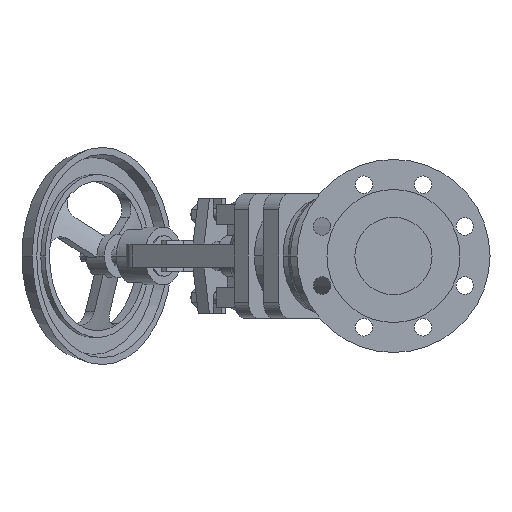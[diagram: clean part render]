
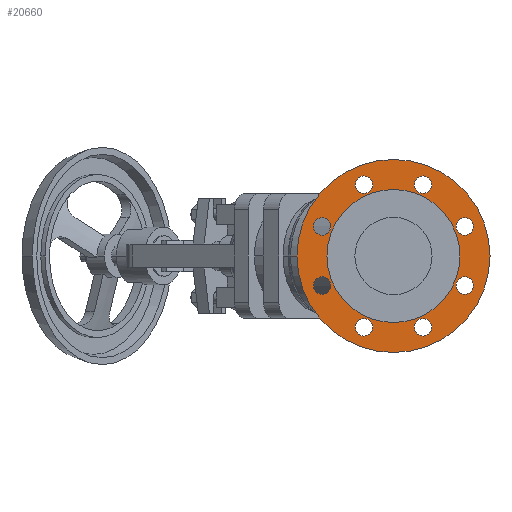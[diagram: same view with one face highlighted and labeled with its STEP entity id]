
A CAD part, left-side view. The second image highlights one B-rep face of the part: STEP entity #20660.
In plain terms, the highlighted planar face has unit normal (-1, 0, 0).
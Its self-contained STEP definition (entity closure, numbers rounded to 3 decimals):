
#4680=CARTESIAN_POINT('',(3.76,-68.875,0.)
);
#4690=VERTEX_POINT('',#4680);
#4850=CARTESIAN_POINT('',(3.76,68.875,0.)
);
#4860=VERTEX_POINT('',#4850);
#4890=CARTESIAN_POINT('',(3.76,0.,0.));
#4900=DIRECTION('',(-1.,0.,0.));
#4910=DIRECTION('',(0.,1.,0.));
#4920=AXIS2_PLACEMENT_3D('',#4890,#4900,#4910);
#4930=CIRCLE('',#4920,68.875);
#4940=EDGE_CURVE('',#4690,#4860,#4930,.T.);
#6870=CARTESIAN_POINT('',(3.76,0.,-100.));
#6880=VERTEX_POINT('',#6870);
#7060=CARTESIAN_POINT('',(3.76,0.,100.));
#7070=VERTEX_POINT('',#7060);
#7100=CARTESIAN_POINT('',(3.76,0.,0.));
#7110=DIRECTION('',(1.,0.,0.));
#7120=DIRECTION('',(0.,0.,-1.));
#7130=AXIS2_PLACEMENT_3D('',#7100,#7110,#7120);
#7140=CIRCLE('',#7130,100.);
#7150=EDGE_CURVE('',#6880,#7070,#7140,.T.);
#7360=CARTESIAN_POINT('',(3.76,30.615,
-82.91));
#7370=VERTEX_POINT('',#7360);
#7550=CARTESIAN_POINT('',(3.76,30.615,
-64.91));
#7560=VERTEX_POINT('',#7550);
#7590=CARTESIAN_POINT('',(3.76,30.615,
-73.91));
#7600=DIRECTION('',(-1.,0.,0.));
#7610=DIRECTION('',(0.,0.,-1.));
#7620=AXIS2_PLACEMENT_3D('',#7590,#7600,#7610);
#7630=CIRCLE('',#7620,9.);
#7640=EDGE_CURVE('',#7370,#7560,#7630,.T.);
#7850=CARTESIAN_POINT('',(3.76,-30.615,
-64.91));
#7860=VERTEX_POINT('',#7850);
#8040=CARTESIAN_POINT('',(3.76,-30.615,
-82.91));
#8050=VERTEX_POINT('',#8040);
#8080=CARTESIAN_POINT('',(3.76,-30.615,
-73.91));
#8090=DIRECTION('',(-1.,0.,0.));
#8100=DIRECTION('',(0.,0.,-1.));
#8110=AXIS2_PLACEMENT_3D('',#8080,#8090,#8100);
#8120=CIRCLE('',#8110,9.);
#8130=EDGE_CURVE('',#7860,#8050,#8120,.T.);
#8340=CARTESIAN_POINT('',(3.76,73.91,
-39.615));
#8350=VERTEX_POINT('',#8340);
#8400=CARTESIAN_POINT('',(3.76,73.91,
-30.615));
#8410=DIRECTION('',(-1.,0.,0.));
#8420=DIRECTION('',(0.,0.,-1.));
#8430=AXIS2_PLACEMENT_3D('',#8400,#8410,#8420);
#8440=CIRCLE('',#8430,9.);
#8450=CARTESIAN_POINT('',(3.76,73.91,
-21.615));
#8460=VERTEX_POINT('',#8450);
#8470=EDGE_CURVE('',#8460,#8350,#8440,.T.);
#8830=CARTESIAN_POINT('',(3.76,-73.91,
-21.615));
#8840=VERTEX_POINT('',#8830);
#9020=CARTESIAN_POINT('',(3.76,-73.91,
-39.615));
#9030=VERTEX_POINT('',#9020);
#9060=CARTESIAN_POINT('',(3.76,-73.91,
-30.615));
#9070=DIRECTION('',(-1.,0.,0.));
#9080=DIRECTION('',(0.,0.,-1.));
#9090=AXIS2_PLACEMENT_3D('',#9060,#9070,#9080);
#9100=CIRCLE('',#9090,9.);
#9110=EDGE_CURVE('',#8840,#9030,#9100,.T.);
#9320=CARTESIAN_POINT('',(3.76,73.91,
21.615));
#9330=VERTEX_POINT('',#9320);
#9510=CARTESIAN_POINT('',(3.76,73.91,
39.615));
#9520=VERTEX_POINT('',#9510);
#9550=CARTESIAN_POINT('',(3.76,73.91,
30.615));
#9560=DIRECTION('',(-1.,0.,0.));
#9570=DIRECTION('',(0.,0.,-1.));
#9580=AXIS2_PLACEMENT_3D('',#9550,#9560,#9570);
#9590=CIRCLE('',#9580,9.);
#9600=EDGE_CURVE('',#9330,#9520,#9590,.T.);
#9810=CARTESIAN_POINT('',(3.76,-73.91,
21.615));
#9820=VERTEX_POINT('',#9810);
#9870=CARTESIAN_POINT('',(3.76,-73.91,
30.615));
#9880=DIRECTION('',(-1.,0.,0.));
#9890=DIRECTION('',(0.,0.,-1.));
#9900=AXIS2_PLACEMENT_3D('',#9870,#9880,#9890);
#9910=CIRCLE('',#9900,9.);
#9920=CARTESIAN_POINT('',(3.76,-73.91,
39.615));
#9930=VERTEX_POINT('',#9920);
#9940=EDGE_CURVE('',#9930,#9820,#9910,.T.);
#10300=CARTESIAN_POINT('',(3.76,30.615,
64.91));
#10310=VERTEX_POINT('',#10300);
#10360=CARTESIAN_POINT('',(3.76,30.615,
73.91));
#10370=DIRECTION('',(-1.,0.,0.));
#10380=DIRECTION('',(0.,0.,-1.));
#10390=AXIS2_PLACEMENT_3D('',#10360,#10370,#10380);
#10400=CIRCLE('',#10390,9.);
#10410=CARTESIAN_POINT('',(3.76,30.615,
82.91));
#10420=VERTEX_POINT('',#10410);
#10430=EDGE_CURVE('',#10420,#10310,#10400,.T.);
#10790=CARTESIAN_POINT('',(3.76,-30.615,
64.91));
#10800=VERTEX_POINT('',#10790);
#10980=CARTESIAN_POINT('',(3.76,-30.615,
82.91));
#10990=VERTEX_POINT('',#10980);
#11020=CARTESIAN_POINT('',(3.76,-30.615,
73.91));
#11030=DIRECTION('',(-1.,0.,0.));
#11040=DIRECTION('',(0.,0.,-1.));
#11050=AXIS2_PLACEMENT_3D('',#11020,#11030,#11040);
#11060=CIRCLE('',#11050,9.);
#11070=EDGE_CURVE('',#10800,#10990,#11060,.T.);
#20110=CARTESIAN_POINT('',(3.76,0.,0.));
#20120=DIRECTION('',(1.,0.,0.));
#20130=DIRECTION('',(0.,0.,-1.));
#20140=AXIS2_PLACEMENT_3D('',#20110,#20120,#20130);
#20150=PLANE('',#20140);
#20160=EDGE_CURVE('',#10990,#10800,#11060,.T.);
#20170=ORIENTED_EDGE('',*,*,#20160,.F.);
#20180=ORIENTED_EDGE('',*,*,#11070,.F.);
#20190=EDGE_LOOP('',(#20180,#20170));
#20200=FACE_BOUND('',#20190,.T.);
#20210=ORIENTED_EDGE('',*,*,#10430,.F.);
#20220=EDGE_CURVE('',#10310,#10420,#10400,.T.);
#20230=ORIENTED_EDGE('',*,*,#20220,.F.);
#20240=EDGE_LOOP('',(#20230,#20210));
#20250=FACE_BOUND('',#20240,.T.);
#20260=EDGE_CURVE('',#9820,#9930,#9910,.T.);
#20270=ORIENTED_EDGE('',*,*,#20260,.F.);
#20280=ORIENTED_EDGE('',*,*,#9940,.F.);
#20290=EDGE_LOOP('',(#20280,#20270));
#20300=FACE_BOUND('',#20290,.T.);
#20310=EDGE_CURVE('',#9520,#9330,#9590,.T.);
#20320=ORIENTED_EDGE('',*,*,#20310,.F.);
#20330=ORIENTED_EDGE('',*,*,#9600,.F.);
#20340=EDGE_LOOP('',(#20330,#20320));
#20350=FACE_BOUND('',#20340,.T.);
#20360=EDGE_CURVE('',#9030,#8840,#9100,.T.);
#20370=ORIENTED_EDGE('',*,*,#20360,.F.);
#20380=ORIENTED_EDGE('',*,*,#9110,.F.);
#20390=EDGE_LOOP('',(#20380,#20370));
#20400=FACE_BOUND('',#20390,.T.);
#20410=EDGE_CURVE('',#8350,#8460,#8440,.T.);
#20420=ORIENTED_EDGE('',*,*,#20410,.F.);
#20430=ORIENTED_EDGE('',*,*,#8470,.F.);
#20440=EDGE_LOOP('',(#20430,#20420));
#20450=FACE_BOUND('',#20440,.T.);
#20460=EDGE_CURVE('',#8050,#7860,#8120,.T.);
#20470=ORIENTED_EDGE('',*,*,#20460,.F.);
#20480=ORIENTED_EDGE('',*,*,#8130,.F.);
#20490=EDGE_LOOP('',(#20480,#20470));
#20500=FACE_BOUND('',#20490,.T.);
#20510=EDGE_CURVE('',#7560,#7370,#7630,.T.);
#20520=ORIENTED_EDGE('',*,*,#20510,.F.);
#20530=ORIENTED_EDGE('',*,*,#7640,.F.);
#20540=EDGE_LOOP('',(#20530,#20520));
#20550=FACE_BOUND('',#20540,.T.);
#20560=EDGE_CURVE('',#7070,#6880,#7140,.T.);
#20570=ORIENTED_EDGE('',*,*,#20560,.F.);
#20580=ORIENTED_EDGE('',*,*,#7150,.F.);
#20590=EDGE_LOOP('',(#20580,#20570));
#20600=FACE_OUTER_BOUND('',#20590,.T.);
#20610=EDGE_CURVE('',#4860,#4690,#4930,.T.);
#20620=ORIENTED_EDGE('',*,*,#20610,.F.);
#20630=ORIENTED_EDGE('',*,*,#4940,.F.);
#20640=EDGE_LOOP('',(#20630,#20620));
#20650=FACE_BOUND('',#20640,.T.);
#20660=ADVANCED_FACE('',(#20200,#20250,#20300,#20350,#20400,#20450,
#20500,#20550,#20600,#20650),#20150,.F.);
